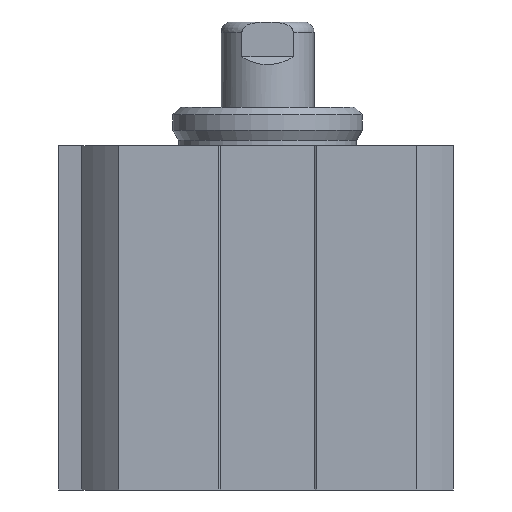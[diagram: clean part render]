
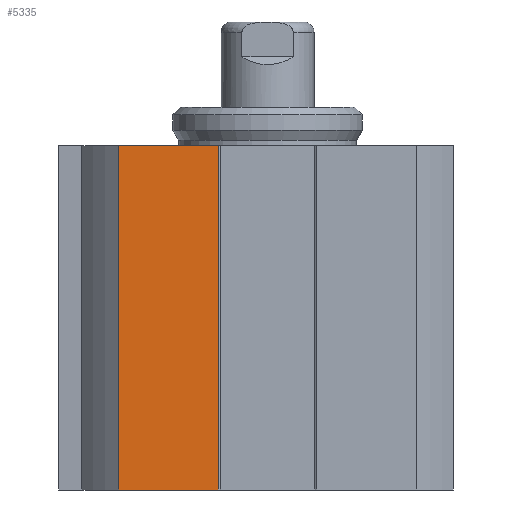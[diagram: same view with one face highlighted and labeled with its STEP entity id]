
A CAD part, left-side view. The second image highlights one B-rep face of the part: STEP entity #5335.
In plain terms, the highlighted planar face has unit normal (-1, 0, 0).
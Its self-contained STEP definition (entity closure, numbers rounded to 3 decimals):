
#63=LINE('',#7352,#325);
#142=LINE('',#7619,#404);
#143=LINE('',#7622,#405);
#144=LINE('',#7623,#406);
#325=VECTOR('',#6107,1000.);
#404=VECTOR('',#6354,1000.);
#405=VECTOR('',#6355,1000.);
#406=VECTOR('',#6356,1000.);
#646=PLANE('',#5661);
#944=ORIENTED_EDGE('',*,*,#1871,.F.);
#945=ORIENTED_EDGE('',*,*,#1872,.T.);
#946=ORIENTED_EDGE('',*,*,#1746,.F.);
#947=ORIENTED_EDGE('',*,*,#1873,.T.);
#1746=EDGE_CURVE('',#2234,#2231,#63,.T.);
#1871=EDGE_CURVE('',#2327,#2328,#142,.T.);
#1872=EDGE_CURVE('',#2327,#2231,#143,.T.);
#1873=EDGE_CURVE('',#2234,#2328,#144,.T.);
#2231=VERTEX_POINT('',#7346);
#2234=VERTEX_POINT('',#7351);
#2327=VERTEX_POINT('',#7620);
#2328=VERTEX_POINT('',#7621);
#2853=EDGE_LOOP('',(#944,#945,#946,#947));
#3210=FACE_BOUND('',#2853,.T.);
#5335=ADVANCED_FACE('',(#3210),#646,.T.);
#5661=AXIS2_PLACEMENT_3D('',#7618,#6352,#6353);
#6107=DIRECTION('',(0.,0.,1.));
#6352=DIRECTION('',(-1.,0.,0.));
#6353=DIRECTION('',(0.,0.,1.));
#6354=DIRECTION('',(0.,0.,-1.));
#6355=DIRECTION('',(0.,1.,0.));
#6356=DIRECTION('',(0.,-1.,0.));
#7346=CARTESIAN_POINT('',(-23.,19.261,44.5));
#7351=CARTESIAN_POINT('',(-23.,19.261,0.));
#7352=CARTESIAN_POINT('',(-23.,19.261,0.));
#7618=CARTESIAN_POINT('',(-23.,-19.261,0.));
#7619=CARTESIAN_POINT('',(-23.,6.375,44.5));
#7620=CARTESIAN_POINT('',(-23.,6.375,44.5));
#7621=CARTESIAN_POINT('',(-23.,6.375,0.));
#7622=CARTESIAN_POINT('',(-23.,6.375,44.5));
#7623=CARTESIAN_POINT('',(-23.,19.261,0.));
